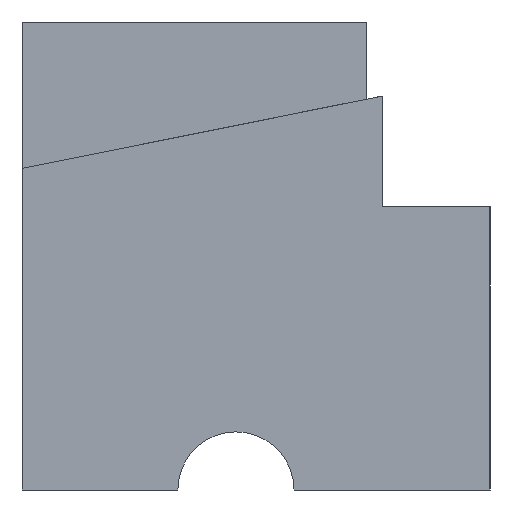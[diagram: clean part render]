
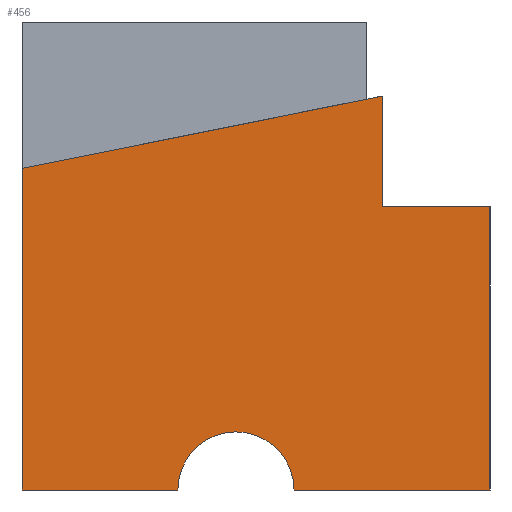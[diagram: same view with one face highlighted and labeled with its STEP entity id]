
A CAD part, left-side view. The second image highlights one B-rep face of the part: STEP entity #456.
In plain terms, the highlighted planar face has unit normal (-1, 0, 0).
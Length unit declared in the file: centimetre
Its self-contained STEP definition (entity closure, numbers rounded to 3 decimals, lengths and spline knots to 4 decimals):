
#3 = EDGE_CURVE ( 'NONE', #317, #736, #486, .T. ) ;
#5 = EDGE_LOOP ( 'NONE', ( #41, #593, #429, #814, #519, #600, #874, #535 ) ) ;
#21 = DIRECTION ( 'NONE',  ( 0., -1., 0. ) ) ;
#33 = AXIS2_PLACEMENT_3D ( 'NONE', #438, #305, #316 ) ;
#41 = ORIENTED_EDGE ( 'NONE', *, *, #790, .F. ) ;
#43 = CARTESIAN_POINT ( 'NONE',  ( 0., 1000., 687.2758 ) ) ;
#48 = DIRECTION ( 'NONE',  ( 0., 0., -1. ) ) ;
#52 = VERTEX_POINT ( 'NONE', #845 ) ;
#100 = CIRCLE ( 'NONE', #33, 124.1462 ) ;
#104 = EDGE_CURVE ( 'NONE', #803, #717, #100, .T. ) ;
#112 = EDGE_CURVE ( 'NONE', #404, #803, #663, .T. ) ;
#181 = LINE ( 'NONE', #43, #741 ) ;
#185 = DIRECTION ( 'NONE',  ( 0., -0.98, 0.197 ) ) ;
#200 = DIRECTION ( 'NONE',  ( 0., 0., -1. ) ) ;
#232 = CARTESIAN_POINT ( 'NONE',  ( 0., 1000., 0. ) ) ;
#248 = DIRECTION ( 'NONE',  ( 0., -1., 0. ) ) ;
#260 = FACE_OUTER_BOUND ( 'NONE', #5, .T. ) ;
#267 = EDGE_CURVE ( 'NONE', #499, #736, #181, .T. ) ;
#299 = VERTEX_POINT ( 'NONE', #859 ) ;
#305 = DIRECTION ( 'NONE',  ( 1., 0., 0. ) ) ;
#310 = VECTOR ( 'NONE', #248, 100. ) ;
#316 = DIRECTION ( 'NONE',  ( 0., 0., -1. ) ) ;
#317 = VERTEX_POINT ( 'NONE', #867 ) ;
#328 = EDGE_CURVE ( 'NONE', #717, #52, #602, .T. ) ;
#330 = CARTESIAN_POINT ( 'NONE',  ( 0., 1000., 1000. ) ) ;
#347 = VECTOR ( 'NONE', #21, 100. ) ;
#348 = CARTESIAN_POINT ( 'NONE',  ( 0., 0., 1000. ) ) ;
#403 = LINE ( 'NONE', #630, #347 ) ;
#404 = VERTEX_POINT ( 'NONE', #232 ) ;
#429 = ORIENTED_EDGE ( 'NONE', *, *, #267, .F. ) ;
#438 = CARTESIAN_POINT ( 'NONE',  ( 0., 542.8647, 0. ) ) ;
#442 = DIRECTION ( 'NONE',  ( 0., -1., 0. ) ) ;
#456 = ADVANCED_FACE ( 'NONE', ( #260 ), #677, .F. ) ;
#486 = LINE ( 'NONE', #779, #656 ) ;
#489 = AXIS2_PLACEMENT_3D ( 'NONE', #330, #688, #200 ) ;
#499 = VERTEX_POINT ( 'NONE', #616 ) ;
#500 = DIRECTION ( 'NONE',  ( 0., 0., 1. ) ) ;
#519 = ORIENTED_EDGE ( 'NONE', *, *, #112, .T. ) ;
#520 = CARTESIAN_POINT ( 'NONE',  ( 0., 1000., 0. ) ) ;
#535 = ORIENTED_EDGE ( 'NONE', *, *, #854, .F. ) ;
#554 = VECTOR ( 'NONE', #774, 100. ) ;
#559 = CARTESIAN_POINT ( 'NONE',  ( 0., 230.6905, 841.5908 ) ) ;
#593 = ORIENTED_EDGE ( 'NONE', *, *, #3, .T. ) ;
#600 = ORIENTED_EDGE ( 'NONE', *, *, #104, .T. ) ;
#602 = LINE ( 'NONE', #520, #718 ) ;
#616 = CARTESIAN_POINT ( 'NONE',  ( 0., 1000., 687.2758 ) ) ;
#628 = CARTESIAN_POINT ( 'NONE',  ( 0., 1000., 1000. ) ) ;
#630 = CARTESIAN_POINT ( 'NONE',  ( 0., 230.6905, 605.6206 ) ) ;
#656 = VECTOR ( 'NONE', #500, 100. ) ;
#660 = LINE ( 'NONE', #348, #786 ) ;
#663 = LINE ( 'NONE', #882, #310 ) ;
#677 = PLANE ( 'NONE',  #489 ) ;
#686 = LINE ( 'NONE', #628, #554 ) ;
#688 = DIRECTION ( 'NONE',  ( 1., 0., 0. ) ) ;
#704 = EDGE_CURVE ( 'NONE', #499, #404, #686, .T. ) ;
#717 = VERTEX_POINT ( 'NONE', #763 ) ;
#718 = VECTOR ( 'NONE', #442, 100. ) ;
#736 = VERTEX_POINT ( 'NONE', #559 ) ;
#741 = VECTOR ( 'NONE', #185, 100. ) ;
#763 = CARTESIAN_POINT ( 'NONE',  ( 0., 418.7185, 0. ) ) ;
#774 = DIRECTION ( 'NONE',  ( 0., 0., -1. ) ) ;
#779 = CARTESIAN_POINT ( 'NONE',  ( 0., 230.6905, 605.6206 ) ) ;
#786 = VECTOR ( 'NONE', #48, 100. ) ;
#790 = EDGE_CURVE ( 'NONE', #317, #299, #403, .T. ) ;
#803 = VERTEX_POINT ( 'NONE', #841 ) ;
#814 = ORIENTED_EDGE ( 'NONE', *, *, #704, .T. ) ;
#841 = CARTESIAN_POINT ( 'NONE',  ( 0., 667.0109, 0. ) ) ;
#845 = CARTESIAN_POINT ( 'NONE',  ( 0., 0., 0. ) ) ;
#854 = EDGE_CURVE ( 'NONE', #299, #52, #660, .T. ) ;
#859 = CARTESIAN_POINT ( 'NONE',  ( 0., 0., 605.6206 ) ) ;
#867 = CARTESIAN_POINT ( 'NONE',  ( 0., 230.6905, 605.6206 ) ) ;
#874 = ORIENTED_EDGE ( 'NONE', *, *, #328, .T. ) ;
#882 = CARTESIAN_POINT ( 'NONE',  ( 0., 1000., 0. ) ) ;
